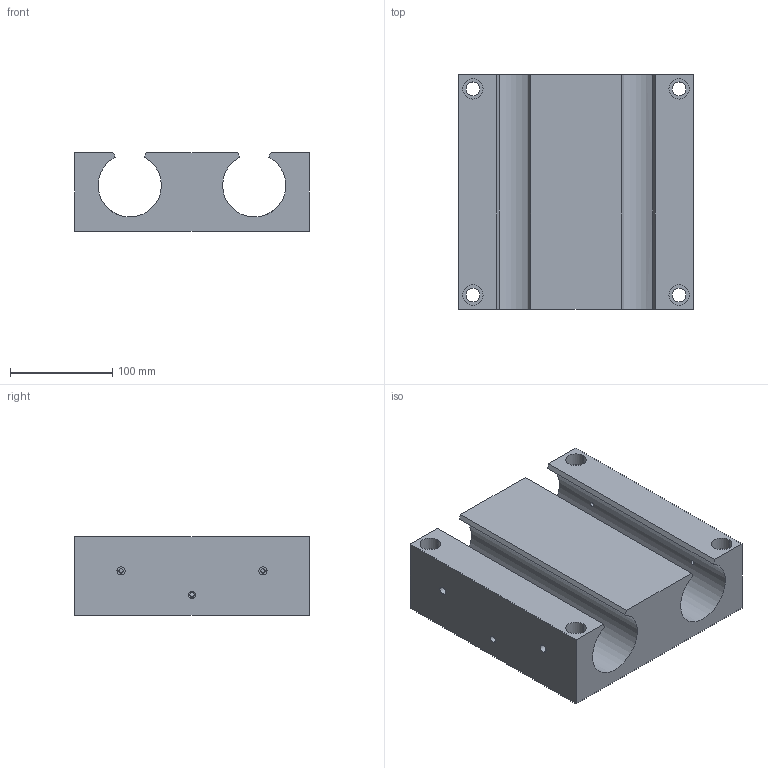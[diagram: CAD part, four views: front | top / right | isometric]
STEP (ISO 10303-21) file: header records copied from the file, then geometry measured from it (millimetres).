
FILE_DESCRIPTION (( 'STEP AP214' ), '1' );
FILE_NAME ('KQSO-40.step', '2020-03-04T13:36:11', ( '' ), ( '' ), 'SwSTEP 2.0', 'SolidWorks 2019', '' );
FILE_SCHEMA (( 'AUTOMOTIVE_DESIGN' ));
Length unit declared in the file: millimetre
Products named in the file (1): KQSO-40
Bounding box: 230 x 230 x 77 mm (x, y, z)
Volume: 2592742.7 mm3; surface area: 246164.9 mm2
Topology: 1 solids, 1 shells, 84 faces, 198 edges, 127 vertices
Faces by surface type: cylinder 52, plane 24, cone 8
Entity records: 3044 total; most frequent: CARTESIAN_POINT 756, DIRECTION 448, ORIENTED_EDGE 392, EDGE_CURVE 196, AXIS2_PLACEMENT_3D 179, VERTEX_POINT 127, EDGE_LOOP 117, CIRCLE 94
